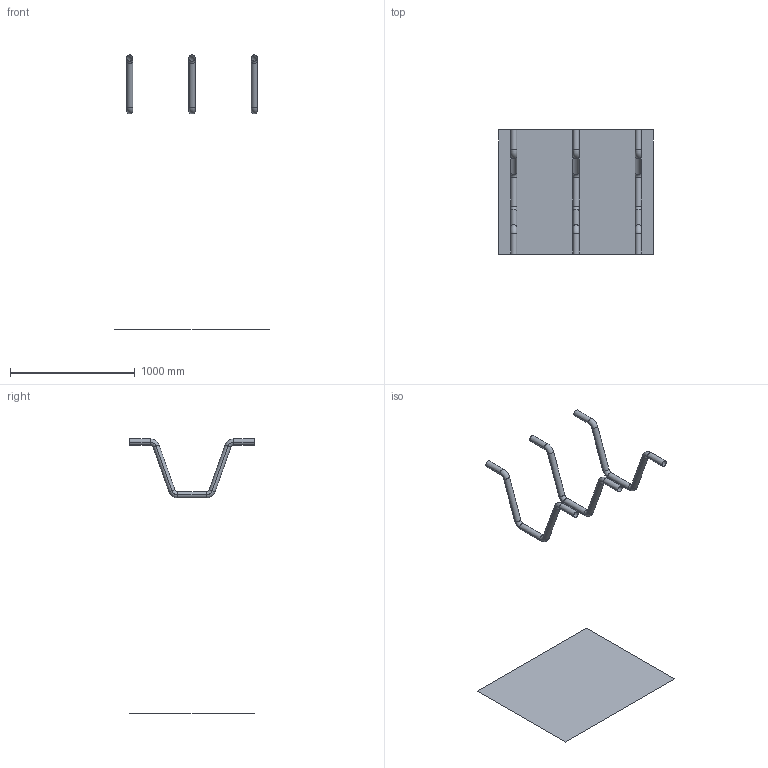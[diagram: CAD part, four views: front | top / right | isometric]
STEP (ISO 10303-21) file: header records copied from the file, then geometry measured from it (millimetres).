
FILE_DESCRIPTION(('CATIA V5 STEP Exchange'),'2;1');
FILE_NAME('C:\_Andres\UNIVERSIDAD\IQS\ASIGNATURAS\DAO\EXF\EXF-16172c\2inicio\Puig_Bataller_Ej08_v24.stp','2017-03-05T21:54:55+00:00',('none'),('none'),'CATIA Version 5-6 Release 2014 SP1 HF18','CATIA V5 STEP AP203','none');
FILE_SCHEMA(('CONFIG_CONTROL_DESIGN'));
Length unit declared in the file: millimetre
Products named in the file (1): Puig_Bataller_Ej08_v24
Bounding box: 1240 x 1000 x 2201 mm (x, y, z)
Surface area: 1976485.5 mm2 (no closed solid volume)
Topology: 0 solids, 4 shells, 55 faces, 118 edges, 64 vertices
Faces by surface type: cylinder 30, torus 24, plane 1
Entity records: 1283 total; most frequent: ORIENTED_EDGE 220, CARTESIAN_POINT 208, DIRECTION 168, EDGE_CURVE 118, AXIS2_PLACEMENT_3D 110, CIRCLE 84, VERTEX_POINT 64, ADVANCED_FACE 55
